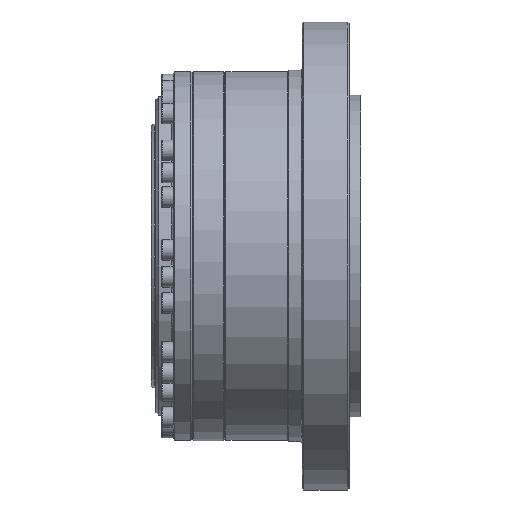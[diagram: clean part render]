
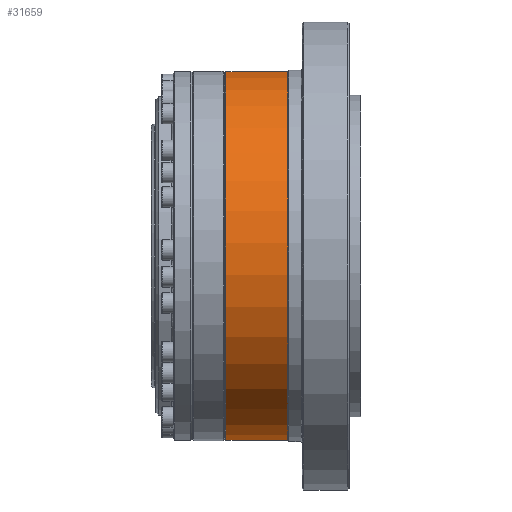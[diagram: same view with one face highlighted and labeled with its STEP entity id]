
A CAD part, front view. The second image highlights one B-rep face of the part: STEP entity #31659.
In plain terms, the highlighted cylindrical face has radius 63 mm (diameter 126 mm), a full revolution.
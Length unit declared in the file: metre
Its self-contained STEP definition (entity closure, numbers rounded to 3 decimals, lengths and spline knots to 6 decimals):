
#6897 = CARTESIAN_POINT ( 'NONE',  ( -0.0224, 0., 0. ) ) ;
#7797 = EDGE_LOOP ( 'NONE', ( #20594 ) ) ;
#8729 = AXIS2_PLACEMENT_3D ( 'NONE', #26721, #9828, #10275 ) ;
#9035 = EDGE_LOOP ( 'NONE', ( #41786 ) ) ;
#9828 = DIRECTION ( 'NONE',  ( -1., 0., 0. ) ) ;
#10275 = DIRECTION ( 'NONE',  ( 0., -0.275, 0.961 ) ) ;
#11064 = VERTEX_POINT ( 'NONE', #16673 ) ;
#11709 = CIRCLE ( 'NONE', #30142, 0.063 ) ;
#12018 = DIRECTION ( 'NONE',  ( 0., 0.275, -0.961 ) ) ;
#13171 = CYLINDRICAL_SURFACE ( 'NONE', #8729, 0.063 ) ;
#16479 = DIRECTION ( 'NONE',  ( 1., 0., 0. ) ) ;
#16573 = AXIS2_PLACEMENT_3D ( 'NONE', #6897, #16479, #20457 ) ;
#16673 = CARTESIAN_POINT ( 'NONE',  ( -0.0224, -0.017321, 0.060572 ) ) ;
#20457 = DIRECTION ( 'NONE',  ( 0., -0.275, 0.961 ) ) ;
#20594 = ORIENTED_EDGE ( 'NONE', *, *, #32711, .T. ) ;
#22227 = CARTESIAN_POINT ( 'NONE',  ( -0.0014, 0., 0. ) ) ;
#23244 = CARTESIAN_POINT ( 'NONE',  ( -0.0014, 0.017321, -0.060572 ) ) ;
#26721 = CARTESIAN_POINT ( 'NONE',  ( -0.0261, 0., 0. ) ) ;
#27930 = CIRCLE ( 'NONE', #16573, 0.063 ) ;
#30142 = AXIS2_PLACEMENT_3D ( 'NONE', #22227, #38918, #12018 ) ;
#31659 = ADVANCED_FACE ( 'NONE', ( #34012, #43629 ), #13171, .T. ) ;
#32711 = EDGE_CURVE ( 'NONE', #11064, #11064, #27930, .T. ) ;
#34012 = FACE_OUTER_BOUND ( 'NONE', #7797, .T. ) ;
#36403 = EDGE_CURVE ( 'NONE', #43041, #43041, #11709, .T. ) ;
#38918 = DIRECTION ( 'NONE',  ( 1., 0., 0. ) ) ;
#41786 = ORIENTED_EDGE ( 'NONE', *, *, #36403, .F. ) ;
#43041 = VERTEX_POINT ( 'NONE', #23244 ) ;
#43629 = FACE_OUTER_BOUND ( 'NONE', #9035, .T. ) ;
